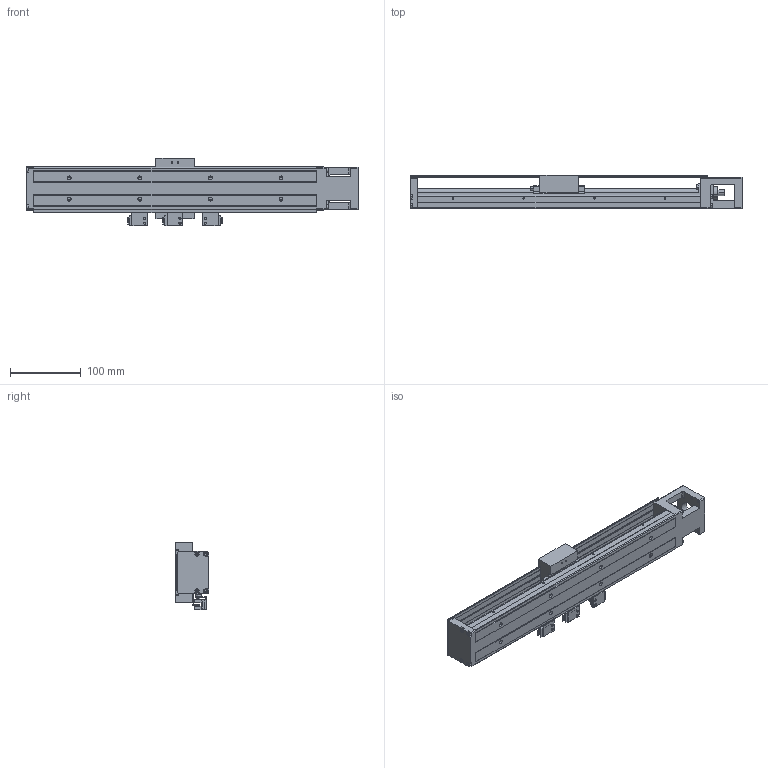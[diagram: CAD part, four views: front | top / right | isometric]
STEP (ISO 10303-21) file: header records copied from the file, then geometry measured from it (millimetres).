
FILE_DESCRIPTION (( 'STEP AP203' ), '1' );
FILE_NAME ('HKK60D10C-400A1-F0CS2.stp', '2021-11-30T01:30:31', ( '' ), ( '' ), 'SwSTEP 2.0', 'SolidWorks 2018', '' );
FILE_SCHEMA (( 'CONFIG_CONTROL_DESIGN' ));
Length unit declared in the file: millimetre
Products named in the file (1): HKK60D10C-400A1-F0CS2
Bounding box: 470 x 48 x 95.85 mm (x, y, z)
Volume: 622093.5 mm3; surface area: 232988.3 mm2
Topology: 6 solids, 16 shells, 1363 faces, 3467 edges, 2203 vertices
Faces by surface type: plane 841, cylinder 382, cone 106, torus 32, bspline 2
Entity records: 40943 total; most frequent: CARTESIAN_POINT 8191, ORIENTED_EDGE 6818, DIRECTION 6657, EDGE_CURVE 3409, LINE 2397, VECTOR 2397, VERTEX_POINT 2203, AXIS2_PLACEMENT_3D 2130
